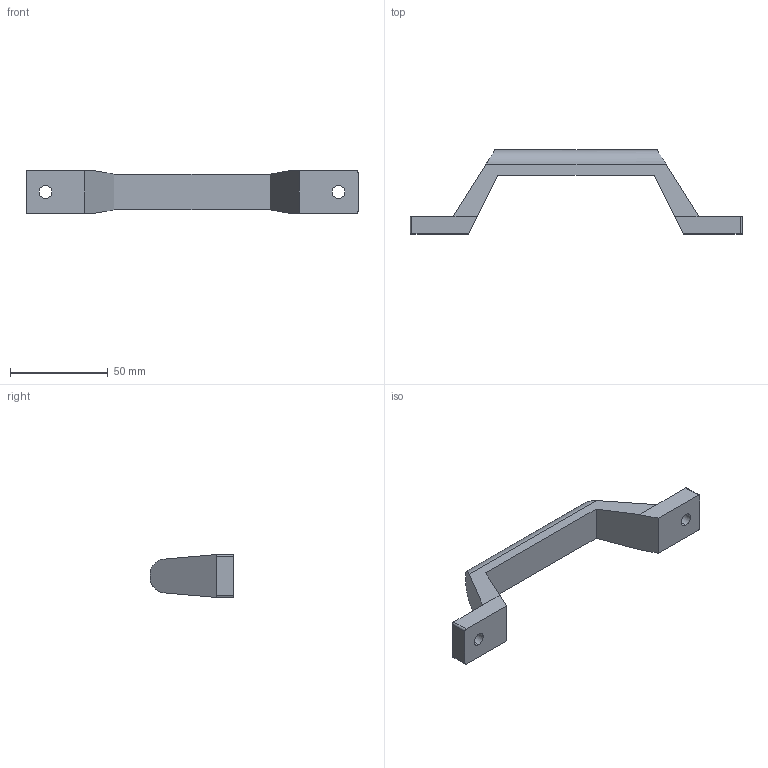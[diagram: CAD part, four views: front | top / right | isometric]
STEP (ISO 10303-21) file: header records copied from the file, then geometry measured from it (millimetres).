
FILE_DESCRIPTION (( 'STEP AP203' ), '1' );
FILE_NAME ('E10-20802.STEP', '2017-02-28T02:18:24', ( '' ), ( '' ), 'SwSTEP 2.0', 'SolidWorks 2013', '' );
FILE_SCHEMA (( 'CONFIG_CONTROL_DESIGN' ));
Length unit declared in the file: millimetre
Products named in the file (1): E10-20802
Bounding box: 170 x 43 x 22 mm (x, y, z)
Volume: 39736.8 mm3; surface area: 12534 mm2
Topology: 1 solids, 1 shells, 32 faces, 82 edges, 52 vertices
Faces by surface type: plane 18, cylinder 10, cone 4
Entity records: 1047 total; most frequent: CARTESIAN_POINT 179, DIRECTION 164, ORIENTED_EDGE 164, EDGE_CURVE 82, LINE 58, VECTOR 58, AXIS2_PLACEMENT_3D 53, VERTEX_POINT 52
